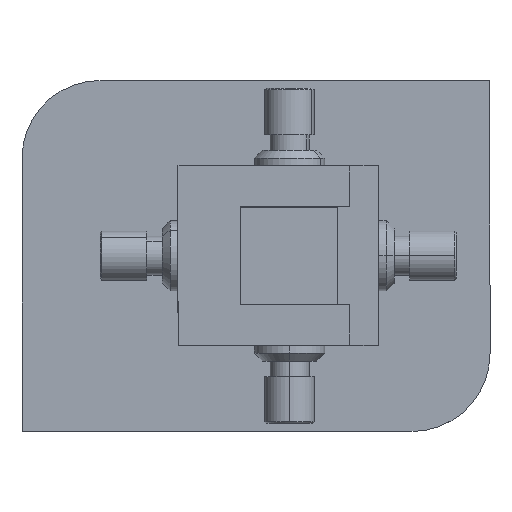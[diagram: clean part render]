
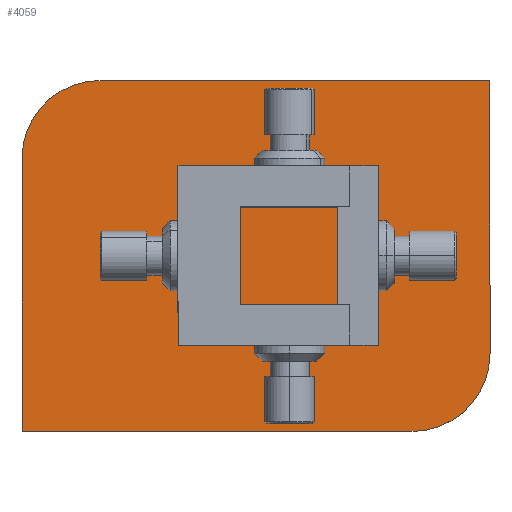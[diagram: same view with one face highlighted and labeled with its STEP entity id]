
A CAD part, top view. The second image highlights one B-rep face of the part: STEP entity #4059.
In plain terms, the highlighted planar face has unit normal (0, 0, 1).
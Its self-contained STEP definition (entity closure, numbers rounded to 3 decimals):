
#5 = EDGE_CURVE ( 'NONE', #2002, #7594, #5712, .T. ) ;
#98 = EDGE_CURVE ( 'NONE', #7594, #2238, #4585, .T. ) ;
#248 = CARTESIAN_POINT ( 'NONE',  ( -6.919, 8.083, 2. ) ) ;
#257 = EDGE_CURVE ( 'NONE', #3804, #1349, #5056, .T. ) ;
#289 = ORIENTED_EDGE ( 'NONE', *, *, #1080, .F. ) ;
#342 = ORIENTED_EDGE ( 'NONE', *, *, #2945, .F. ) ;
#470 = VERTEX_POINT ( 'NONE', #5436 ) ;
#525 = DIRECTION ( 'NONE',  ( -1., 0., 0. ) ) ;
#529 = EDGE_CURVE ( 'NONE', #1100, #470, #6620, .T. ) ;
#542 = CARTESIAN_POINT ( 'NONE',  ( 18.331, -22.917, 2. ) ) ;
#656 = FACE_BOUND ( 'NONE', #3982, .T. ) ;
#747 = DIRECTION ( 'NONE',  ( 0., 0., 1. ) ) ;
#768 = EDGE_CURVE ( 'NONE', #6594, #1100, #2540, .T. ) ;
#927 = CARTESIAN_POINT ( 'NONE',  ( -31.669, -22.917, 2. ) ) ;
#932 = ORIENTED_EDGE ( 'NONE', *, *, #1750, .T. ) ;
#1008 = ORIENTED_EDGE ( 'NONE', *, *, #98, .T. ) ;
#1015 = CARTESIAN_POINT ( 'NONE',  ( -6.919, -8.917, 2. ) ) ;
#1077 = VERTEX_POINT ( 'NONE', #1015 ) ;
#1080 = EDGE_CURVE ( 'NONE', #3443, #1077, #1980, .T. ) ;
#1100 = VERTEX_POINT ( 'NONE', #1611 ) ;
#1119 = AXIS2_PLACEMENT_3D ( 'NONE', #7509, #2813, #7561 ) ;
#1200 = DIRECTION ( 'NONE',  ( 0., 0., -1. ) ) ;
#1349 = VERTEX_POINT ( 'NONE', #7251 ) ;
#1424 = CIRCLE ( 'NONE', #7212, 1.75 ) ;
#1441 = CIRCLE ( 'NONE', #4006, 1.75 ) ;
#1467 = ORIENTED_EDGE ( 'NONE', *, *, #768, .T. ) ;
#1511 = CARTESIAN_POINT ( 'NONE',  ( 28.331, 22.083, 2. ) ) ;
#1611 = CARTESIAN_POINT ( 'NONE',  ( -21.669, 22.083, 2. ) ) ;
#1690 = CIRCLE ( 'NONE', #4331, 1.75 ) ;
#1737 = AXIS2_PLACEMENT_3D ( 'NONE', #2881, #4047, #2203 ) ;
#1749 = EDGE_CURVE ( 'NONE', #2856, #4271, #1690, .T. ) ;
#1750 = EDGE_CURVE ( 'NONE', #2238, #6594, #3539, .T. ) ;
#1806 = EDGE_CURVE ( 'NONE', #1349, #3804, #5486, .T. ) ;
#1876 = DIRECTION ( 'NONE',  ( 0., 0., -1. ) ) ;
#1969 = VECTOR ( 'NONE', #6481, 1000. ) ;
#1980 = CIRCLE ( 'NONE', #1737, 1.75 ) ;
#2002 = VERTEX_POINT ( 'NONE', #927 ) ;
#2012 = VECTOR ( 'NONE', #6875, 1000. ) ;
#2203 = DIRECTION ( 'NONE',  ( -1., 0., 0. ) ) ;
#2223 = DIRECTION ( 'NONE',  ( 0., 0., -1. ) ) ;
#2227 = PLANE ( 'NONE',  #1119 ) ;
#2238 = VERTEX_POINT ( 'NONE', #6085 ) ;
#2440 = CARTESIAN_POINT ( 'NONE',  ( -8.669, 8.083, 2. ) ) ;
#2536 = CARTESIAN_POINT ( 'NONE',  ( 13.081, -0.417, 2. ) ) ;
#2540 = LINE ( 'NONE', #3314, #2739 ) ;
#2739 = VECTOR ( 'NONE', #7428, 1000. ) ;
#2813 = DIRECTION ( 'NONE',  ( 0., 0., -1. ) ) ;
#2852 = LINE ( 'NONE', #5128, #2012 ) ;
#2856 = VERTEX_POINT ( 'NONE', #7327 ) ;
#2881 = CARTESIAN_POINT ( 'NONE',  ( -8.669, -8.917, 2. ) ) ;
#2945 = EDGE_CURVE ( 'NONE', #1077, #3443, #1424, .T. ) ;
#3049 = DIRECTION ( 'NONE',  ( -1., 0., 0. ) ) ;
#3073 = FACE_BOUND ( 'NONE', #5078, .T. ) ;
#3200 = ORIENTED_EDGE ( 'NONE', *, *, #4849, .T. ) ;
#3260 = FACE_OUTER_BOUND ( 'NONE', #5989, .T. ) ;
#3270 = DIRECTION ( 'NONE',  ( 0., 0., 1. ) ) ;
#3314 = CARTESIAN_POINT ( 'NONE',  ( -21.669, 22.083, 2. ) ) ;
#3338 = DIRECTION ( 'NONE',  ( 0., 0., 1. ) ) ;
#3386 = AXIS2_PLACEMENT_3D ( 'NONE', #7220, #747, #4883 ) ;
#3443 = VERTEX_POINT ( 'NONE', #4497 ) ;
#3539 = LINE ( 'NONE', #4776, #1969 ) ;
#3804 = VERTEX_POINT ( 'NONE', #248 ) ;
#3813 = DIRECTION ( 'NONE',  ( 1., 0., 0. ) ) ;
#3982 = EDGE_LOOP ( 'NONE', ( #5669, #3200 ) ) ;
#3984 = DIRECTION ( 'NONE',  ( -1., 0., 0. ) ) ;
#4006 = AXIS2_PLACEMENT_3D ( 'NONE', #5344, #5905, #525 ) ;
#4047 = DIRECTION ( 'NONE',  ( 0., 0., 1. ) ) ;
#4059 = ADVANCED_FACE ( 'NONE', ( #656, #3260, #3073, #4366 ), #2227, .F. ) ;
#4066 = CARTESIAN_POINT ( 'NONE',  ( -8.669, 8.083, 2. ) ) ;
#4271 = VERTEX_POINT ( 'NONE', #2536 ) ;
#4331 = AXIS2_PLACEMENT_3D ( 'NONE', #5317, #1876, #5910 ) ;
#4366 = FACE_BOUND ( 'NONE', #6377, .T. ) ;
#4406 = CARTESIAN_POINT ( 'NONE',  ( -31.669, -22.917, 2. ) ) ;
#4497 = CARTESIAN_POINT ( 'NONE',  ( -10.419, -8.917, 2. ) ) ;
#4585 = CIRCLE ( 'NONE', #5561, 10. ) ;
#4597 = ORIENTED_EDGE ( 'NONE', *, *, #257, .T. ) ;
#4776 = CARTESIAN_POINT ( 'NONE',  ( 28.331, 22.083, 2. ) ) ;
#4849 = EDGE_CURVE ( 'NONE', #4271, #2856, #1441, .T. ) ;
#4873 = AXIS2_PLACEMENT_3D ( 'NONE', #2440, #1200, #3049 ) ;
#4883 = DIRECTION ( 'NONE',  ( 1., 0., 0. ) ) ;
#4998 = CARTESIAN_POINT ( 'NONE',  ( 18.331, -12.917, 2. ) ) ;
#5056 = CIRCLE ( 'NONE', #6702, 1.75 ) ;
#5078 = EDGE_LOOP ( 'NONE', ( #5272, #4597 ) ) ;
#5096 = CARTESIAN_POINT ( 'NONE',  ( -8.669, -8.917, 2. ) ) ;
#5128 = CARTESIAN_POINT ( 'NONE',  ( -31.669, 12.083, 2. ) ) ;
#5157 = EDGE_CURVE ( 'NONE', #470, #2002, #2852, .T. ) ;
#5272 = ORIENTED_EDGE ( 'NONE', *, *, #1806, .T. ) ;
#5317 = CARTESIAN_POINT ( 'NONE',  ( 11.331, -0.417, 2. ) ) ;
#5344 = CARTESIAN_POINT ( 'NONE',  ( 11.331, -0.417, 2. ) ) ;
#5403 = ORIENTED_EDGE ( 'NONE', *, *, #5, .T. ) ;
#5432 = VECTOR ( 'NONE', #3813, 1000. ) ;
#5436 = CARTESIAN_POINT ( 'NONE',  ( -31.669, 12.083, 2. ) ) ;
#5486 = CIRCLE ( 'NONE', #4873, 1.75 ) ;
#5561 = AXIS2_PLACEMENT_3D ( 'NONE', #4998, #3270, #6893 ) ;
#5669 = ORIENTED_EDGE ( 'NONE', *, *, #1749, .T. ) ;
#5712 = LINE ( 'NONE', #4406, #5432 ) ;
#5905 = DIRECTION ( 'NONE',  ( 0., 0., -1. ) ) ;
#5910 = DIRECTION ( 'NONE',  ( -1., 0., 0. ) ) ;
#5989 = EDGE_LOOP ( 'NONE', ( #5403, #1008, #932, #1467, #6206, #6867 ) ) ;
#6085 = CARTESIAN_POINT ( 'NONE',  ( 28.331, -12.917, 2. ) ) ;
#6206 = ORIENTED_EDGE ( 'NONE', *, *, #529, .T. ) ;
#6256 = DIRECTION ( 'NONE',  ( -1., 0., 0. ) ) ;
#6377 = EDGE_LOOP ( 'NONE', ( #289, #342 ) ) ;
#6481 = DIRECTION ( 'NONE',  ( 0., 1., 0. ) ) ;
#6594 = VERTEX_POINT ( 'NONE', #1511 ) ;
#6620 = CIRCLE ( 'NONE', #3386, 10. ) ;
#6702 = AXIS2_PLACEMENT_3D ( 'NONE', #4066, #2223, #3984 ) ;
#6867 = ORIENTED_EDGE ( 'NONE', *, *, #5157, .T. ) ;
#6875 = DIRECTION ( 'NONE',  ( 0., -1., 0. ) ) ;
#6893 = DIRECTION ( 'NONE',  ( -1., 0., 0. ) ) ;
#7212 = AXIS2_PLACEMENT_3D ( 'NONE', #5096, #3338, #6256 ) ;
#7220 = CARTESIAN_POINT ( 'NONE',  ( -21.669, 12.083, 2. ) ) ;
#7251 = CARTESIAN_POINT ( 'NONE',  ( -10.419, 8.083, 2. ) ) ;
#7327 = CARTESIAN_POINT ( 'NONE',  ( 9.581, -0.417, 2. ) ) ;
#7428 = DIRECTION ( 'NONE',  ( -1., 0., 0. ) ) ;
#7509 = CARTESIAN_POINT ( 'NONE',  ( 18.331, -12.917, 2. ) ) ;
#7561 = DIRECTION ( 'NONE',  ( -1., 0., 0. ) ) ;
#7594 = VERTEX_POINT ( 'NONE', #542 ) ;
